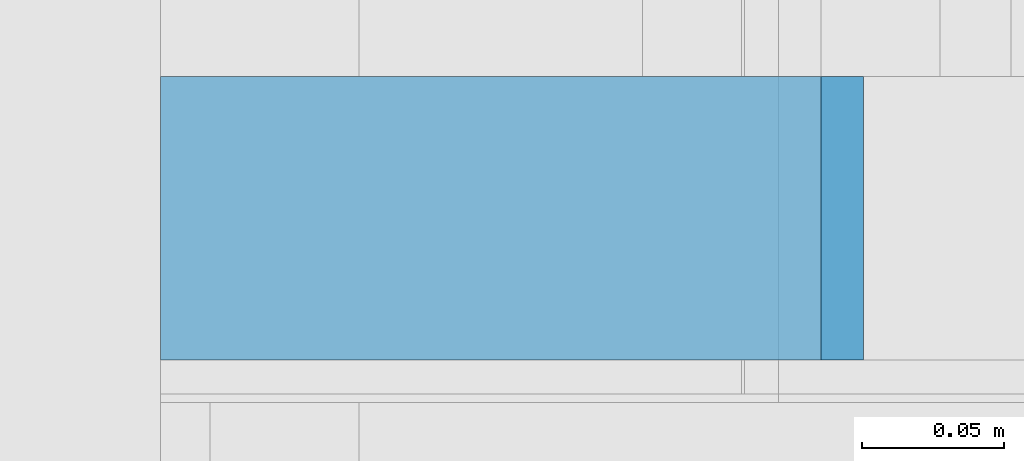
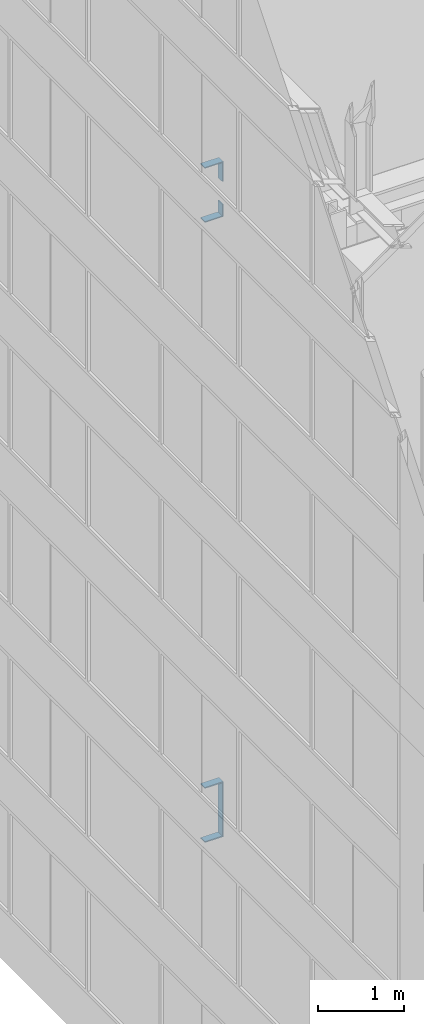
# One storey, part 197 of 583: 8 building element parts, 6 elements without a shape of their own.
"""IFC2X3 building model written with IfcOpenShell, lengths in metres."""

import ifcopenshell
import ifcopenshell.guid

model = None  # the IFC model being written
_history = None  # IfcOwnerHistory: only IFC2X3 demands one
_inside = {}  # id of a spatial element -> (the spatial element, [elements in it])
_under = {}  # id of a project, library or spatial element -> (it, [spatial elements below it])
_declared = {}  # id of a project -> (the project, [libraries it declares])
_typed = {}  # id of a type object -> (the type object, [elements of that type])
_made_of = {}  # id of a material, layer set ... -> (it, [elements and type objects made of it])


def new_model(schema):
    """Start an empty IFC model of exactly this schema.

    Asked for "IFC4X3", IfcOpenShell would pick the latest addendum, in which some entities
    have other attributes; the version numbers below select the first issue.
    IFC2X3 requires an IfcOwnerHistory on every rooted entity: one is made here for all.
    """
    global model, _history
    if schema == "IFC4X3":
        model = ifcopenshell.file(schema_version=(4, 3, 0, 0))
    else:
        model = ifcopenshell.file(schema=schema)
    _inside.clear()
    _under.clear()
    _declared.clear()
    _typed.clear()
    _made_of.clear()
    _history = None
    if model.schema == "IFC2X3":
        org = make("IfcOrganization", Name="unknown")
        user = make(
            "IfcPersonAndOrganization",
            ThePerson=make("IfcPerson", FamilyName="unknown"),
            TheOrganization=org,
        )
        app = make(
            "IfcApplication",
            ApplicationDeveloper=org,
            Version="unknown",
            ApplicationFullName="unknown",
            ApplicationIdentifier="unknown",
        )
        _history = make(
            "IfcOwnerHistory",
            OwningUser=user,
            OwningApplication=app,
            ChangeAction="ADDED",
            CreationDate=0,
        )
    return model


def make(cls, **values):
    """One entity of the class cls with the attributes given. An attribute that is None is left unset."""
    return model.create_entity(
        cls, **{name: value for name, value in values.items() if value is not None}
    )


def entity(cls, *values):
    """Any entity or typed value of the class cls, its attributes in the order of the schema. None: left unset."""
    e = model.create_entity(cls)
    for i, value in enumerate(values):
        if value is not None:
            e[i] = value
    return e


def rooted(cls, **values):
    """An entity with a GlobalId (a new one), such as an element, a storey or a relation."""
    return make(cls, GlobalId=ifcopenshell.guid.new(), OwnerHistory=_history, **values)


def si_unit(unit_type, name, prefix=None):
    """IfcSIUnit, for example si_unit("LENGTHUNIT", "METRE", prefix="MILLI")."""
    return make("IfcSIUnit", UnitType=unit_type, Prefix=prefix, Name=name)


def converted_unit(unit_type, name, factor, base, dimensions=None, offset=None):
    """IfcConversionBasedUnit, such as the inch: factor (a typed value) times the base unit."""
    return make(
        "IfcConversionBasedUnit"
        if offset is None
        else "IfcConversionBasedUnitWithOffset",
        ConversionOffset=offset,
        Dimensions=None
        if dimensions is None
        else entity("IfcDimensionalExponents", *dimensions),
        UnitType=unit_type,
        Name=name,
        ConversionFactor=make(
            "IfcMeasureWithUnit", ValueComponent=factor, UnitComponent=base
        ),
    )


def derived_unit(unit_type, elements):
    """IfcDerivedUnit: a product of units, each with its exponent."""
    return make(
        "IfcDerivedUnit",
        Elements=[
            make("IfcDerivedUnitElement", Unit=unit, Exponent=power)
            for unit, power in elements
        ],
        UnitType=unit_type,
    )


def money_unit(currency):
    """IfcMonetaryUnit."""
    return make("IfcMonetaryUnit", Currency=currency)


def assignment(units):
    """IfcUnitAssignment: the units of a project."""
    return None if units is None else make("IfcUnitAssignment", Units=units)


def point(xyz):
    """IfcCartesianPoint."""
    return None if xyz is None else make("IfcCartesianPoint", Coordinates=xyz)


def direction(xyz):
    """IfcDirection."""
    return None if xyz is None else make("IfcDirection", DirectionRatios=xyz)


def frame(location, z_axis=None, x_axis=None):
    """IfcAxis2Placement3D, a coordinate frame: its origin and axes. An axis left out is left unset."""
    return make(
        "IfcAxis2Placement3D",
        Location=point(location),
        Axis=direction(z_axis),
        RefDirection=direction(x_axis),
    )


def origin_with_axes():
    """The frame at (0, 0, 0) with the z axis (0, 0, 1) and the x axis (1, 0, 0) written out."""
    return frame((0.0, 0.0, 0.0), z_axis=(0.0, 0.0, 1.0), x_axis=(1.0, 0.0, 0.0))


def place(relative_to, where):
    """IfcLocalPlacement: puts the frame where relative to a parent placement (None: the world)."""
    return make(
        "IfcLocalPlacement", PlacementRelTo=relative_to, RelativePlacement=where
    )


def context(
    kind, dimensions, precision=None, world=None, true_north=None, identifier=None
):
    """IfcGeometricRepresentationContext, for example the 3D "Model" context."""
    return make(
        "IfcGeometricRepresentationContext",
        ContextIdentifier=identifier,
        ContextType=kind,
        CoordinateSpaceDimension=dimensions,
        Precision=precision,
        WorldCoordinateSystem=world,
        TrueNorth=true_north,
    )


def subcontext(parent, identifier, kind, view, scale=None):
    """IfcGeometricRepresentationSubContext, for example "Body" below "Model"."""
    return make(
        "IfcGeometricRepresentationSubContext",
        ContextIdentifier=identifier,
        ContextType=kind,
        ParentContext=parent,
        TargetScale=scale,
        TargetView=view,
    )


def project(units=None, contexts=None):
    """IfcProject with its units and contexts."""
    return rooted(
        "IfcProject",
        Name="project",
        RepresentationContexts=contexts,
        UnitsInContext=assignment(units),
    )


def spatial(cls, under=None, at=None, **own):
    """A site, building, storey or space (cls), placed at a placement, below another one or the project."""
    s = rooted(cls, ObjectPlacement=at, **own)
    if under is not None:
        _under.setdefault(under.id(), (under, []))[1].append(s)
    return s


def polyline(points):
    """IfcPolyline through the points."""
    return make("IfcPolyline", Points=[point(p) for p in points])


def outline(outer, holes=None, kind="AREA"):
    """IfcArbitraryClosedProfileDef: a profile drawn as a closed curve; with holes, ...WithVoids."""
    if holes is None:
        return make("IfcArbitraryClosedProfileDef", ProfileType=kind, OuterCurve=outer)
    return make(
        "IfcArbitraryProfileDefWithVoids",
        ProfileType=kind,
        OuterCurve=outer,
        InnerCurves=holes,
    )


def extrude(swept, where, along, depth):
    """IfcExtrudedAreaSolid: the profile swept, set in the frame where, extruded along a direction by depth."""
    return make(
        "IfcExtrudedAreaSolid",
        SweptArea=swept,
        Position=where,
        ExtrudedDirection=direction(along),
        Depth=depth,
    )


def shape(context_of_items, identifier, shape_type, items):
    """IfcShapeRepresentation: the items that make up one representation, for example the "Body"."""
    return make(
        "IfcShapeRepresentation",
        ContextOfItems=context_of_items,
        RepresentationIdentifier=identifier,
        RepresentationType=shape_type,
        Items=items,
    )


def material(Name=None, Category=None):
    """IfcMaterial."""
    return make("IfcMaterial", Name=Name, Category=Category)


def made_of(thing, what):
    """Note that an element or type object is made of a material, layer set ...; save() writes the relation."""
    if what is not None:
        _made_of.setdefault(what.id(), (what, []))[1].append(thing)
    return thing


def type_object(cls, material=None, **own):
    """A type object (cls), such as IfcWallType, which elements share."""
    return made_of(rooted(cls, **own), material)


def element(
    cls,
    number,
    at=None,
    inside=None,
    cuts=None,
    type_object=None,
    material=None,
    context=None,
    identifier="Body",
    shape_type=None,
    held_by="IfcProductDefinitionShape",
    body=None,
    shapes=None,
    **own,
):
    """One element of the class cls, such as IfcWall. Its Tag is "e" and its number.

    at: its placement. inside: the storey or other place that contains it. cuts: it is an
    opening in that element (IfcRelVoidsElement). A single representation is given by context,
    identifier, shape_type and body (its items); several are given by shapes. held_by: the class
    of the entity that holds the representations. save() writes the other relations.
    """
    e = rooted(cls, Tag="e%d" % number, ObjectPlacement=at, **own)
    if body is not None:
        shapes = [shape(context, identifier, shape_type, body)]
    if shapes is not None:
        e.Representation = make(held_by, Representations=shapes)
    if inside is not None:
        _inside.setdefault(inside.id(), (inside, []))[1].append(e)
    if cuts is not None:
        rooted(
            "IfcRelVoidsElement", RelatingBuildingElement=cuts, RelatedOpeningElement=e
        )
    if type_object is not None:
        _typed.setdefault(type_object.id(), (type_object, []))[1].append(e)
    return made_of(e, material)


def aggregate(whole, parts):
    """IfcRelAggregates: a whole, such as a stair, and the parts it consists of."""
    return rooted("IfcRelAggregates", RelatingObject=whole, RelatedObjects=parts)


def save(model, path):
    """Write the relations noted so far, then the file.

    IfcRelAggregates (storeys below a building ...), IfcRelContainedInSpatialStructure (elements
    in a storey), IfcRelDefinesByType, IfcRelAssociatesMaterial and IfcRelDeclares: one each for
    every whole, place, type object, material and project.
    """
    for whole, parts in _under.values():
        aggregate(whole, parts)
    for where, things in _inside.values():
        rooted(
            "IfcRelContainedInSpatialStructure",
            RelatedElements=things,
            RelatingStructure=where,
        )
    for kind, things in _typed.values():
        rooted("IfcRelDefinesByType", RelatedObjects=things, RelatingType=kind)
    for what, things in _made_of.values():
        rooted("IfcRelAssociatesMaterial", RelatedObjects=things, RelatingMaterial=what)
    for by, libraries in _declared.values():
        rooted("IfcRelDeclares", RelatingContext=by, RelatedDefinitions=libraries)
    model.write(path)


model = new_model("IFC2X3")

# Units and contexts
model_context = context("Model", 3, precision=1e-05, world=origin_with_axes(), true_north=direction((0.0, 1.0)))
body_context = subcontext(model_context, "Body", "Model", "MODEL_VIEW", scale=1.0)
ifc_project = project(units=[si_unit("LENGTHUNIT", "METRE"), si_unit("AREAUNIT", "SQUARE_METRE"), si_unit("VOLUMEUNIT", "CUBIC_METRE"), si_unit("ABSORBEDDOSEUNIT", "GRAY"), si_unit("AMOUNTOFSUBSTANCEUNIT", "MOLE"), si_unit("DOSEEQUIVALENTUNIT", "SIEVERT"), si_unit("ELECTRICCAPACITANCEUNIT", "FARAD"), si_unit("ELECTRICCHARGEUNIT", "COULOMB"), si_unit("ELECTRICCONDUCTANCEUNIT", "SIEMENS"), si_unit("ELECTRICCURRENTUNIT", "AMPERE"), si_unit("ELECTRICRESISTANCEUNIT", "OHM"), si_unit("ELECTRICVOLTAGEUNIT", "VOLT"), si_unit("ENERGYUNIT", "JOULE"), si_unit("FORCEUNIT", "NEWTON"), si_unit("FREQUENCYUNIT", "HERTZ"), si_unit("ILLUMINANCEUNIT", "LUX"), si_unit("INDUCTANCEUNIT", "HENRY"), si_unit("LUMINOUSFLUXUNIT", "LUMEN"), si_unit("LUMINOUSINTENSITYUNIT", "CANDELA"), si_unit("MAGNETICFLUXDENSITYUNIT", "TESLA"), si_unit("MAGNETICFLUXUNIT", "WEBER"), si_unit("MASSUNIT", "GRAM"), converted_unit("PLANEANGLEUNIT", "degree", entity("IfcReal", 0.0174532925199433), si_unit("PLANEANGLEUNIT", "RADIAN"), dimensions=[0, 0, 0, 0, 0, 0, 0]), si_unit("POWERUNIT", "WATT"), si_unit("PRESSUREUNIT", "PASCAL"), si_unit("RADIOACTIVITYUNIT", "BECQUEREL"), si_unit("SOLIDANGLEUNIT", "STERADIAN"), si_unit("THERMODYNAMICTEMPERATUREUNIT", "KELVIN"), si_unit("TIMEUNIT", "SECOND"), derived_unit("ACCELERATIONUNIT", [(si_unit("LENGTHUNIT", "METRE"), 1), (si_unit("TIMEUNIT", "SECOND"), -2)]), derived_unit("ANGULARVELOCITYUNIT", [(converted_unit("PLANEANGLEUNIT", "degree", entity("IfcReal", 0.0174532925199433), si_unit("PLANEANGLEUNIT", "RADIAN"), dimensions=[0, 0, 0, 0, 0, 0, 0]), 1), (si_unit("TIMEUNIT", "SECOND"), -1)]), derived_unit("CURVATUREUNIT", [(converted_unit("PLANEANGLEUNIT", "degree", entity("IfcReal", 0.0174532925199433), si_unit("PLANEANGLEUNIT", "RADIAN"), dimensions=[0, 0, 0, 0, 0, 0, 0]), 1), (si_unit("LENGTHUNIT", "METRE"), -1)]), derived_unit("DYNAMICVISCOSITYUNIT", [(si_unit("PRESSUREUNIT", "PASCAL"), 1), (si_unit("TIMEUNIT", "SECOND"), 1)]), derived_unit("HEATFLUXDENSITYUNIT", [(si_unit("POWERUNIT", "WATT"), 1), (si_unit("LENGTHUNIT", "METRE"), -2)]), derived_unit("HEATINGVALUEUNIT", [(si_unit("ENERGYUNIT", "JOULE"), 1), (si_unit("MASSUNIT", "GRAM"), -1)]), derived_unit("INTEGERCOUNTRATEUNIT", [(si_unit("TIMEUNIT", "SECOND"), -1)]), derived_unit("IONCONCENTRATIONUNIT", [(si_unit("MASSUNIT", "GRAM"), 1), (si_unit("VOLUMEUNIT", "CUBIC_METRE"), -1)]), derived_unit("ISOTHERMALMOISTURECAPACITYUNIT", [(si_unit("VOLUMEUNIT", "CUBIC_METRE"), 1), (si_unit("MASSUNIT", "GRAM"), -1)]), derived_unit("KINEMATICVISCOSITYUNIT", [(si_unit("AREAUNIT", "SQUARE_METRE"), 1), (si_unit("TIMEUNIT", "SECOND"), -1)]), derived_unit("LINEARFORCEUNIT", [(si_unit("FORCEUNIT", "NEWTON"), 1), (si_unit("LENGTHUNIT", "METRE"), -1)]), derived_unit("LINEARMOMENTUNIT", [(si_unit("FORCEUNIT", "NEWTON"), 1), (si_unit("LENGTHUNIT", "METRE"), -1)]), derived_unit("LINEARSTIFFNESSUNIT", [(si_unit("FORCEUNIT", "NEWTON"), 1), (si_unit("LENGTHUNIT", "METRE"), -1)]), derived_unit("LINEARVELOCITYUNIT", [(si_unit("LENGTHUNIT", "METRE"), 1), (si_unit("TIMEUNIT", "SECOND"), -1)]), derived_unit("LUMINOUSINTENSITYDISTRIBUTIONUNIT", [(si_unit("LUMINOUSINTENSITYUNIT", "CANDELA"), 1), (si_unit("LUMINOUSFLUXUNIT", "LUMEN"), -1)]), derived_unit("MASSDENSITYUNIT", [(si_unit("MASSUNIT", "GRAM"), 1), (si_unit("VOLUMEUNIT", "CUBIC_METRE"), -1)]), derived_unit("MASSFLOWRATEUNIT", [(si_unit("MASSUNIT", "GRAM"), 1), (si_unit("TIMEUNIT", "SECOND"), -1)]), derived_unit("MASSPERLENGTHUNIT", [(si_unit("MASSUNIT", "GRAM"), 1), (si_unit("LENGTHUNIT", "METRE"), -1)]), derived_unit("MODULUSOFELASTICITYUNIT", [(si_unit("FORCEUNIT", "NEWTON"), 1), (si_unit("AREAUNIT", "SQUARE_METRE"), -1)]), derived_unit("MODULUSOFLINEARSUBGRADEREACTIONUNIT", [(si_unit("FORCEUNIT", "NEWTON"), 1), (si_unit("LENGTHUNIT", "METRE"), -2)]), derived_unit("MODULUSOFROTATIONALSUBGRADEREACTIONUNIT", [(si_unit("FORCEUNIT", "NEWTON"), 1), (si_unit("LENGTHUNIT", "METRE"), 1)]), derived_unit("MODULUSOFSUBGRADEREACTIONUNIT", [(si_unit("FORCEUNIT", "NEWTON"), 1), (si_unit("VOLUMEUNIT", "CUBIC_METRE"), -1)]), derived_unit("MOISTUREDIFFUSIVITYUNIT", [(si_unit("VOLUMEUNIT", "CUBIC_METRE"), 1), (si_unit("TIMEUNIT", "SECOND"), -1)]), derived_unit("MOLECULARWEIGHTUNIT", [(si_unit("MASSUNIT", "GRAM"), 1), (si_unit("AMOUNTOFSUBSTANCEUNIT", "MOLE"), -1)]), derived_unit("PLANARFORCEUNIT", [(si_unit("FORCEUNIT", "NEWTON"), 1), (si_unit("LENGTHUNIT", "METRE"), -2)]), derived_unit("ROTATIONALFREQUENCYUNIT", [(si_unit("TIMEUNIT", "SECOND"), -1)]), derived_unit("ROTATIONALMASSUNIT", [(si_unit("MASSUNIT", "GRAM"), 1), (si_unit("LENGTHUNIT", "METRE"), 2)]), derived_unit("ROTATIONALSTIFFNESSUNIT", [(si_unit("FORCEUNIT", "NEWTON"), 1), (si_unit("LENGTHUNIT", "METRE"), 1), (converted_unit("PLANEANGLEUNIT", "degree", entity("IfcReal", 0.0174532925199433), si_unit("PLANEANGLEUNIT", "RADIAN"), dimensions=[0, 0, 0, 0, 0, 0, 0]), -1)]), derived_unit("SECTIONAREAINTEGRALUNIT", [(si_unit("LENGTHUNIT", "METRE"), 5)]), derived_unit("SECTIONMODULUSUNIT", [(si_unit("LENGTHUNIT", "METRE"), 3)]), derived_unit("SHEARMODULUSUNIT", [(si_unit("FORCEUNIT", "NEWTON"), 1), (si_unit("AREAUNIT", "SQUARE_METRE"), -1)]), derived_unit("SOUNDPOWERUNIT", [(si_unit("ENERGYUNIT", "JOULE"), 1), (si_unit("TIMEUNIT", "SECOND"), -1)]), derived_unit("SPECIFICHEATCAPACITYUNIT", [(si_unit("FORCEUNIT", "NEWTON"), 1), (si_unit("MASSUNIT", "GRAM"), -1), (si_unit("THERMODYNAMICTEMPERATUREUNIT", "KELVIN"), -1)]), derived_unit("TEMPERATUREGRADIENTUNIT", [(si_unit("THERMODYNAMICTEMPERATUREUNIT", "KELVIN"), 1), (si_unit("LENGTHUNIT", "METRE"), -1)]), derived_unit("THERMALADMITTANCEUNIT", [(si_unit("POWERUNIT", "WATT"), 1), (si_unit("AREAUNIT", "SQUARE_METRE"), -1), (si_unit("THERMODYNAMICTEMPERATUREUNIT", "KELVIN"), -1)]), derived_unit("THERMALCONDUCTANCEUNIT", [(si_unit("POWERUNIT", "WATT"), 1), (si_unit("LENGTHUNIT", "METRE"), -1), (si_unit("THERMODYNAMICTEMPERATUREUNIT", "KELVIN"), -1)]), derived_unit("THERMALEXPANSIONCOEFFICIENTUNIT", [(si_unit("THERMODYNAMICTEMPERATUREUNIT", "KELVIN"), -1)]), derived_unit("THERMALRESISTANCEUNIT", [(si_unit("AREAUNIT", "SQUARE_METRE"), 1), (si_unit("POWERUNIT", "WATT"), -1)]), derived_unit("THERMALTRANSMITTANCEUNIT", [(si_unit("POWERUNIT", "WATT"), 1), (si_unit("AREAUNIT", "SQUARE_METRE"), -1), (si_unit("THERMODYNAMICTEMPERATUREUNIT", "KELVIN"), -1)]), derived_unit("TORQUEUNIT", [(si_unit("FORCEUNIT", "NEWTON"), 1), (si_unit("LENGTHUNIT", "METRE"), 1)]), derived_unit("VAPORPERMEABILITYUNIT", [(si_unit("MASSUNIT", "GRAM"), 1), (si_unit("TIMEUNIT", "SECOND"), -1)]), derived_unit("VOLUMETRICFLOWRATEUNIT", [(si_unit("VOLUMEUNIT", "CUBIC_METRE"), 1), (si_unit("TIMEUNIT", "SECOND"), -1)]), derived_unit("WARPINGCONSTANTUNIT", [(si_unit("LENGTHUNIT", "METRE"), 6)]), derived_unit("WARPINGMOMENTUNIT", [(si_unit("FORCEUNIT", "NEWTON"), 1), (si_unit("LENGTHUNIT", "METRE"), 2)]), money_unit("GBP")], contexts=[model_context])

# Site, building, storey
site_placement = place(None, origin_with_axes())
site = spatial("IfcSite", under=ifc_project, at=site_placement, Name="Site", CompositionType="ELEMENT")
building_placement = place(site_placement, origin_with_axes())
building = spatial("IfcBuilding", under=site, at=building_placement, Name="Building01", CompositionType="ELEMENT")
storey_placement = place(building_placement, frame((0.0, 0.0, 20.78), z_axis=(0.0, 0.0, 1.0), x_axis=(1.0, 0.0, 0.0)))
storey = spatial("IfcBuildingStorey", under=building, at=storey_placement, Name="RL", CompositionType="ELEMENT", Elevation=20.78)

# Wall, building element part
wall_type = type_object("IfcWallType", Name="SHE_A-Walls_Type06f_ExternalWallInsulation_48+15mm", PredefinedType="NOTDEFINED")
wall_1_placement = place(storey_placement, frame((0.27, 8.64, -7.587), z_axis=(0.0, 1.0, 0.0), x_axis=(1.0, 0.0, 0.0)))
wall_1 = element("IfcWall", 1, at=wall_1_placement, inside=storey, type_object=wall_type, Name="6F", ObjectType="SHE_A-Walls_Type06f_ExternalWallInsulation_48+15mm")
ifc_material = material(Name="A_BSUK_Walls_Timber")
building_element_part_1_placement = place(wall_1_placement, origin_with_axes())
building_element_part_1 = element("IfcBuildingElementPart", 2, at=building_element_part_1_placement, material=ifc_material, Name="2", context=body_context, shape_type="SweptSolid", body=[
    extrude(outline(polyline([(-0.17, 0.063), (0.063, 0.063), (0.078, 0.078), (-0.17, 0.078), (-0.17, 0.063)])), frame((0.0, 0.0, 0.015), z_axis=(0.0, 0.0, 1.0), x_axis=(1.0, 0.0, 0.0)), (0.0, 0.0, 1.0), 0.1),
])
aggregate(wall_1, [building_element_part_1])

# Wall, building element parts
wall_2_placement = place(storey_placement, frame((0.27, 8.64, -6.926876), z_axis=(0.0, 1.0, 0.0), x_axis=(0.0, 0.0, 1.0)))
wall_2 = element("IfcWall", 3, at=wall_2_placement, inside=storey, type_object=wall_type, Name="6F", ObjectType="SHE_A-Walls_Type06f_ExternalWallInsulation_48+15mm")
placement_1 = place(wall_2_placement, origin_with_axes())
building_element_part_2 = element("IfcBuildingElementPart", 4, at=placement_1, material=ifc_material, Name="2", context=body_context, shape_type="SweptSolid", body=[
    extrude(outline(polyline([(-0.240624, 0.063), (0.027, 0.063), (0.042, 0.078), (-0.240624, 0.078), (-0.240624, 0.063)])), frame((0.0, 0.0, 0.015), z_axis=(0.0, 0.0, 1.0), x_axis=(1.0, 0.0, 0.0)), (0.0, 0.0, 1.0), 0.1),
])
building_element_part_3 = element("IfcBuildingElementPart", 5, at=placement_1, material=ifc_material, Name="4", context=body_context, shape_type="SweptSolid", body=[
    extrude(outline(polyline([(-0.723124, 0.063), (-0.559992, 0.063), (-0.559992, 0.078), (-0.738124, 0.078), (-0.723124, 0.063)])), frame((0.0, 0.0, 0.015), z_axis=(0.0, 0.0, 1.0), x_axis=(1.0, 0.0, 0.0)), (0.0, 0.0, 1.0), 0.1),
])
aggregate(wall_2, [building_element_part_2, building_element_part_3])

# Wall, building element part
wall_3_placement = place(storey_placement, frame((0.27, 8.64, -6.962876), z_axis=(0.0, 1.0, 0.0), x_axis=(1.0, 0.0, 0.0)))
wall_3 = element("IfcWall", 6, at=wall_3_placement, inside=storey, type_object=wall_type, Name="6F", ObjectType="SHE_A-Walls_Type06f_ExternalWallInsulation_48+15mm")
building_element_part_4_placement = place(wall_3_placement, origin_with_axes())
building_element_part_4 = element("IfcBuildingElementPart", 7, at=building_element_part_4_placement, material=ifc_material, Name="2", context=body_context, shape_type="SweptSolid", body=[
    extrude(outline(polyline([(-0.17, -0.078), (0.078, -0.078), (0.063, -0.063), (-0.17, -0.063), (-0.17, -0.078)])), frame((0.0, 0.0, 0.015), z_axis=(0.0, 0.0, 1.0), x_axis=(1.0, 0.0, 0.0)), (0.0, 0.0, 1.0), 0.1),
])
aggregate(wall_3, [building_element_part_4])

wall_4_placement = place(storey_placement, frame((0.27, 8.64, -16.347), z_axis=(0.0, 1.0, 0.0), x_axis=(-1.0, 0.0, 0.0)))
wall_4 = element("IfcWall", 8, at=wall_4_placement, inside=storey, type_object=wall_type, Name="6F", ObjectType="SHE_A-Walls_Type06f_ExternalWallInsulation_48+15mm")
building_element_part_5_placement = place(wall_4_placement, origin_with_axes())
building_element_part_5 = element("IfcBuildingElementPart", 9, at=building_element_part_5_placement, material=ifc_material, Name="2", context=body_context, shape_type="SweptSolid", body=[
    extrude(outline(polyline([(0.17, -0.063), (-0.063, -0.063), (-0.078, -0.078), (0.17, -0.078), (0.17, -0.063)])), frame((0.0, 0.0, 0.015), z_axis=(0.0, 0.0, 1.0), x_axis=(1.0, 0.0, 0.0)), (0.0, 0.0, 1.0), 0.1),
])
aggregate(wall_4, [building_element_part_5])

# Wall, building element parts
wall_5_placement = place(storey_placement, frame((0.27, 8.64, -15.686876), z_axis=(0.0, 1.0, 0.0), x_axis=(0.0, 0.0, -1.0)))
wall_5 = element("IfcWall", 10, at=wall_5_placement, inside=storey, type_object=wall_type, Name="6F", ObjectType="SHE_A-Walls_Type06f_ExternalWallInsulation_48+15mm")
placement_2 = place(wall_5_placement, origin_with_axes())
building_element_part_6 = element("IfcBuildingElementPart", 11, at=placement_2, material=ifc_material, Name="2", context=body_context, shape_type="SweptSolid", body=[
    extrude(outline(polyline([(0.483124, -0.063), (-0.027, -0.063), (-0.042, -0.078), (0.468124, -0.078), (0.483124, -0.063)])), frame((0.0, 0.0, 0.015), z_axis=(0.0, 0.0, 1.0), x_axis=(1.0, 0.0, 0.0)), (0.0, 0.0, 1.0), 0.1),
])
building_element_part_7 = element("IfcBuildingElementPart", 12, at=placement_2, material=ifc_material, Name="4", context=body_context, shape_type="SweptSolid", body=[
    extrude(outline(polyline([(0.723124, -0.063), (0.483124, -0.063), (0.468124, -0.078), (0.738124, -0.078), (0.723124, -0.063)])), frame((0.0, 0.0, 0.015), z_axis=(0.0, 0.0, 1.0), x_axis=(1.0, 0.0, 0.0)), (0.0, 0.0, 1.0), 0.1),
])
aggregate(wall_5, [building_element_part_6, building_element_part_7])

# Wall, building element part
wall_6_placement = place(storey_placement, frame((0.27, 8.64, -15.722876), z_axis=(0.0, 1.0, 0.0), x_axis=(1.0, 0.0, 0.0)))
wall_6 = element("IfcWall", 13, at=wall_6_placement, inside=storey, type_object=wall_type, Name="6F", ObjectType="SHE_A-Walls_Type06f_ExternalWallInsulation_48+15mm")
building_element_part_8_placement = place(wall_6_placement, origin_with_axes())
building_element_part_8 = element("IfcBuildingElementPart", 14, at=building_element_part_8_placement, material=ifc_material, Name="2", context=body_context, shape_type="SweptSolid", body=[
    extrude(outline(polyline([(-0.17, -0.078), (0.078, -0.078), (0.063, -0.063), (-0.17, -0.063), (-0.17, -0.078)])), frame((0.0, 0.0, 0.015), z_axis=(0.0, 0.0, 1.0), x_axis=(1.0, 0.0, 0.0)), (0.0, 0.0, 1.0), 0.1),
])
aggregate(wall_6, [building_element_part_8])

save(model, "model.ifc")
